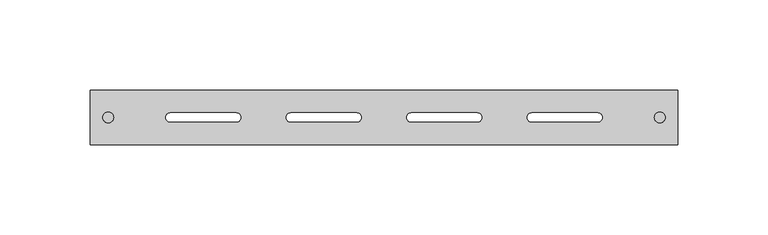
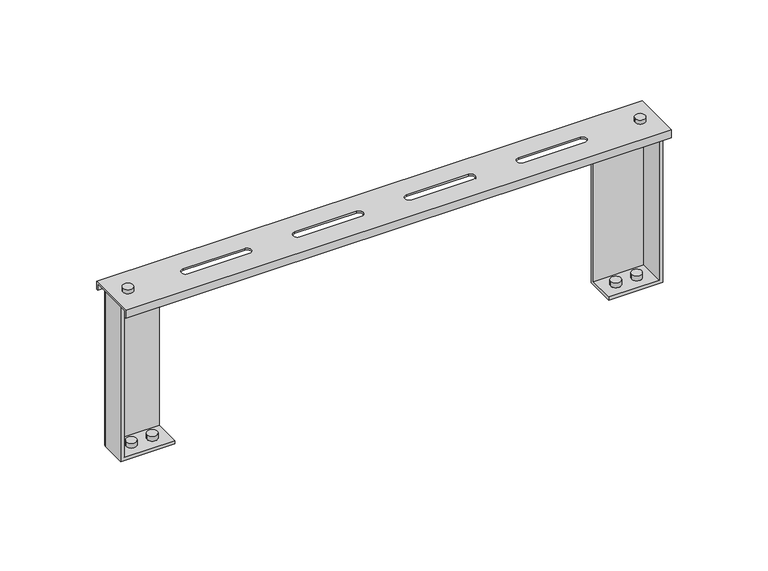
"""IFC4 building model written with IfcOpenShell, lengths in millimetres: cable carrier fitting geometry, CCT_Hyperline_FBTR_EFS_Опора_для_установки_оптического_лотка : Опора для установки оптического лотка."""

from ifc_helpers import new_model, si_unit, point, frame, frame_2d, origin, place, context, project, spatial, polyline, circle_curve, trimmed, segment, composite_curve, outline, extrude, source, transform, mapped, element, save
from ifc_brep_helpers import plane_surface, cylinder_surface, revolved_surface, advanced_brep


def cable_carrier_fitting_607e7183(model_context):
    return source(origin(), model_context, "Body", "SolidModel", [
        advanced_brep(
        [(129.2573593, 10.0, 99.0), (129.2573593, 8.0, 99.0), (159.5, 8.0, 99.0), (159.5, -8.0, 99.0), (161.5, -8.0, 99.0), (161.5, 7.8786797, 99.0), (159.3786797, 10.0, 99.0), (161.5, 7.8786797, 2.0), (159.3786797, 10.0, 2.0), (159.5, 8.0, 2.0), (159.5, -8.0, 2.0), (129.2573593, 8.0, 2.0), (129.2573593, -8.0, 2.0), (141.1286617, 0.0, 2.0), (135.1286617, 0.0, 2.0), (153.6286976, 0.0, 2.0), (147.6286976, 0.0, 2.0), (129.2573593, -8.0, 0.0), (129.2573593, 10.0, 0.0), (159.3786797, 10.0, 0.0), (161.5, 7.8786797, 0.0), (161.5, -8.0, 0.0), (135.1286617, 0.0, 0.0), (141.1286617, 0.0, 0.0), (147.6286976, 0.0, 0.0), (153.6286976, 0.0, 0.0), (141.1286617, 0.0, 5.0), (135.1286617, 0.0, 5.0), (141.1286617, 0.0, -3.0), (135.1286617, 0.0, -3.0), (147.6286976, 0.0, 5.0), (153.6286976, 0.0, 5.0), (147.6286976, 0.0, -3.0), (153.6286976, 0.0, -3.0)],
        [
            (0, 1),
            (1, 2),
            (2, 3),
            (3, 4),
            (4, 5),
            (5, 6, circle_curve(frame((159.3786797, 7.8786797, 99.0), z_axis=(0.0, 0.0, 1.0), x_axis=(-1.0, 0.0, 0.0)), 2.1213203)),
            (6, 0),
            (5, 7),
            (7, 8, circle_curve(frame((159.3786797, 7.8786797, 2.0), z_axis=(0.0, 0.0, 1.0), x_axis=(-1.0, 0.0, 0.0)), 2.1213203)),
            (8, 6),
            (2, 9),
            (9, 10),
            (10, 3),
            (1, 11),
            (11, 9),
            (12, 10),
            (11, 12),
            (13, 14, circle_curve(frame((138.1286617, 0.0, 2.0), z_axis=(0.0, 0.0, -1.0), x_axis=(-1.0, 0.0, 0.0)), 3.0)),
            (14, 13, circle_curve(frame((138.1286617, 0.0, 2.0), z_axis=(0.0, 0.0, -1.0), x_axis=(-1.0, 0.0, 0.0)), 3.0)),
            (15, 16, circle_curve(frame((150.6286976, 0.0, 2.0), z_axis=(0.0, 0.0, -1.0), x_axis=(1.0, 0.0, 0.0)), 3.0)),
            (16, 15, circle_curve(frame((150.6286976, 0.0, 2.0), z_axis=(0.0, 0.0, -1.0), x_axis=(1.0, 0.0, 0.0)), 3.0)),
            (17, 18),
            (18, 19),
            (19, 20, circle_curve(frame((159.3786797, 7.8786797, 0.0), z_axis=(0.0, 0.0, -1.0), x_axis=(-1.0, 0.0, 0.0)), 2.1213203)),
            (20, 21),
            (21, 17),
            (22, 23, circle_curve(frame((138.1286617, 0.0, 0.0), z_axis=(0.0, 0.0, 1.0), x_axis=(-1.0, 0.0, 0.0)), 3.0)),
            (23, 22, circle_curve(frame((138.1286617, 0.0, 0.0), z_axis=(0.0, 0.0, 1.0), x_axis=(-1.0, 0.0, 0.0)), 3.0)),
            (24, 25, circle_curve(frame((150.6286976, 0.0, 0.0), z_axis=(0.0, 0.0, 1.0), x_axis=(1.0, 0.0, 0.0)), 3.0)),
            (25, 24, circle_curve(frame((150.6286976, 0.0, 0.0), z_axis=(0.0, 0.0, 1.0), x_axis=(1.0, 0.0, 0.0)), 3.0)),
            (17, 12),
            (0, 18),
            (8, 19),
            (7, 20),
            (4, 21),
            (26, 27, circle_curve(frame((138.1286617, 0.0, 5.0), z_axis=(0.0, 0.0, 1.0), x_axis=(-1.0, 0.0, 0.0)), 3.0)),
            (27, 26, circle_curve(frame((138.1286617, 0.0, 5.0), z_axis=(0.0, 0.0, 1.0), x_axis=(-1.0, 0.0, 0.0)), 3.0)),
            (28, 29, circle_curve(frame((138.1286617, 0.0, -3.0), z_axis=(0.0, 0.0, -1.0), x_axis=(-1.0, 0.0, 0.0)), 3.0)),
            (29, 28, circle_curve(frame((138.1286617, 0.0, -3.0), z_axis=(0.0, 0.0, -1.0), x_axis=(-1.0, 0.0, 0.0)), 3.0)),
            (27, 14),
            (13, 26),
            (28, 23),
            (22, 29),
            (30, 31, circle_curve(frame((150.6286976, 0.0, 5.0), z_axis=(0.0, 0.0, 1.0), x_axis=(1.0, 0.0, 0.0)), 3.0)),
            (31, 30, circle_curve(frame((150.6286976, 0.0, 5.0), z_axis=(0.0, 0.0, 1.0), x_axis=(1.0, 0.0, 0.0)), 3.0)),
            (32, 33, circle_curve(frame((150.6286976, 0.0, -3.0), z_axis=(0.0, 0.0, -1.0), x_axis=(1.0, 0.0, 0.0)), 3.0)),
            (33, 32, circle_curve(frame((150.6286976, 0.0, -3.0), z_axis=(0.0, 0.0, -1.0), x_axis=(1.0, 0.0, 0.0)), 3.0)),
            (30, 16),
            (15, 31),
            (33, 25),
            (24, 32),
        ],
        [
            plane_surface(frame((129.2573593, 8.0, 99.0), z_axis=(0.0, 0.0, 1.0), x_axis=(0.0, -1.0, 0.0))),
            cylinder_surface(frame((159.3786797, 7.8786797, 2.0), z_axis=(0.0, 0.0, 1.0), x_axis=(-1.0, 0.0, 0.0)), 2.1213203),
            plane_surface(frame((159.5, 8.0, 99.0), z_axis=(-1.0, 0.0, 0.0), x_axis=(0.0, 0.0, -1.0))),
            plane_surface(frame((129.2573593, 8.0, 99.0), z_axis=(0.0, -1.0, 0.0), x_axis=(0.0, 0.0, -1.0))),
            plane_surface(frame((161.5, -8.0, 2.0), z_axis=(0.0, 0.0, 1.0), x_axis=(1.0, 0.0, 0.0))),
            plane_surface(frame((161.5, -8.0, 0.0), z_axis=(0.0, 0.0, -1.0), x_axis=(-1.0, 0.0, 0.0))),
            plane_surface(frame((129.2573593, 10.0, 2.0), z_axis=(-1.0, 0.0, 0.0), x_axis=(0.0, 0.0, -1.0))),
            plane_surface(frame((159.3786797, 10.0, 2.0), z_axis=(0.0, 1.0, 0.0), x_axis=(0.0, 0.0, -1.0))),
            cylinder_surface(frame((159.3786797, 7.8786797, 0.0), z_axis=(0.0, 0.0, 1.0), x_axis=(-1.0, 0.0, 0.0)), 2.1213203),
            plane_surface(frame((161.5, -8.0, 2.0), z_axis=(1.0, 0.0, 0.0), x_axis=(0.0, 0.0, -1.0))),
            plane_surface(frame((129.2573593, -8.0, 2.0), z_axis=(0.0, -1.0, 0.0), x_axis=(0.0, 0.0, -1.0))),
            plane_surface(frame((135.1286617, 0.0, 5.0), z_axis=(0.0, 0.0, 1.0), x_axis=(0.0, -1.0, 0.0))),
            plane_surface(frame((135.1286617, 0.0, -3.0), z_axis=(0.0, 0.0, -1.0), x_axis=(0.0, 1.0, 0.0))),
            cylinder_surface(frame((138.1286617, 0.0, -3.0), z_axis=(0.0, 0.0, 1.0), x_axis=(-1.0, 0.0, 0.0)), 3.0),
            plane_surface(frame((153.6286976, 0.0, 5.0), z_axis=(0.0, 0.0, 1.0), x_axis=(0.0, 1.0, 0.0))),
            plane_surface(frame((153.6286976, 0.0, -3.0), z_axis=(0.0, 0.0, -1.0), x_axis=(0.0, -1.0, 0.0))),
            cylinder_surface(frame((150.6286976, 0.0, -3.0), z_axis=(0.0, 0.0, 1.0), x_axis=(1.0, 0.0, 0.0)), 3.0),
        ],
        [
            (0, [[1, 2, 3, 4, 5, 6, 7]]),
            (1, [[-6, 8, 9, 10]]),
            (2, [[-3, 11, 12, 13]]),
            (3, [[-2, 14, 15, -11]]),
            (4, [[16, -12, -15, 17], [18, 19], [20, 21]]),
            (5, [[22, 23, 24, 25, 26], [27, 28], [29, 30]]),
            (6, [[-22, 31, -17, -14, -1, 32]]),
            (7, [[-23, -32, -7, -10, 33]]),
            (8, [[-24, -33, -9, 34]]),
            (9, [[-25, -34, -8, -5, 35]]),
            (10, [[-26, -35, -4, -13, -16, -31]]),
            (11, [[36, 37]]),
            (12, [[38, 39]]),
            (13, [[-37, 40, -18, 41]]),
            (13, [[-38, 42, -27, 43]]),
            (13, [[-36, -41, -19, -40]]),
            (13, [[-39, -43, -28, -42]]),
            (14, [[44, 45]]),
            (15, [[46, 47]]),
            (16, [[-44, 48, -20, 49]]),
            (16, [[-47, 50, -29, 51]]),
            (16, [[-45, -49, -21, -48]]),
            (16, [[-46, -51, -30, -50]]),
        ],
    ),
        advanced_brep(
        [(-129.2573593, 10.0, 99.0), (-159.3786797, 10.0, 99.0), (-161.5, 7.8786797, 99.0), (-161.5, -8.0, 99.0), (-159.5, -8.0, 99.0), (-159.5, 8.0, 99.0), (-129.2573593, 8.0, 99.0), (-159.3786797, 10.0, 2.0), (-161.5, 7.8786797, 2.0), (-159.5, -8.0, 2.0), (-159.5, 8.0, 2.0), (-129.2573593, 8.0, 2.0), (-129.2573593, -8.0, 2.0), (-147.6286976, 0.0, 2.0), (-153.6286976, 0.0, 2.0), (-135.1286617, 0.0, 2.0), (-141.1286617, 0.0, 2.0), (-129.2573593, -8.0, 0.0), (-161.5, -8.0, 0.0), (-161.5, 7.8786797, 0.0), (-159.3786797, 10.0, 0.0), (-129.2573593, 10.0, 0.0), (-141.1286617, 0.0, 0.0), (-135.1286617, 0.0, 0.0), (-153.6286976, 0.0, 0.0), (-147.6286976, 0.0, 0.0), (-147.6286976, 0.0, 5.0), (-153.6286976, 0.0, 5.0), (-147.6286976, 0.0, -3.0), (-153.6286976, 0.0, -3.0), (-141.1286617, 0.0, 5.0), (-135.1286617, 0.0, 5.0), (-141.1286617, 0.0, -3.0), (-135.1286617, 0.0, -3.0)],
        [
            (0, 1),
            (1, 2, circle_curve(frame((-159.3786797, 7.8786797, 99.0), z_axis=(0.0, 0.0, 1.0), x_axis=(1.0, 0.0, 0.0)), 2.1213203)),
            (2, 3),
            (3, 4),
            (4, 5),
            (5, 6),
            (6, 0),
            (1, 7),
            (7, 8, circle_curve(frame((-159.3786797, 7.8786797, 2.0), z_axis=(0.0, 0.0, 1.0), x_axis=(1.0, 0.0, 0.0)), 2.1213203)),
            (8, 2),
            (4, 9),
            (9, 10),
            (10, 5),
            (10, 11),
            (11, 6),
            (12, 11),
            (9, 12),
            (13, 14, circle_curve(frame((-150.6286976, 0.0, 2.0), z_axis=(0.0, 0.0, -1.0), x_axis=(-1.0, 0.0, 0.0)), 3.0)),
            (14, 13, circle_curve(frame((-150.6286976, 0.0, 2.0), z_axis=(0.0, 0.0, -1.0), x_axis=(-1.0, 0.0, 0.0)), 3.0)),
            (15, 16, circle_curve(frame((-138.1286617, 0.0, 2.0), z_axis=(0.0, 0.0, -1.0), x_axis=(1.0, 0.0, 0.0)), 3.0)),
            (16, 15, circle_curve(frame((-138.1286617, 0.0, 2.0), z_axis=(0.0, 0.0, -1.0), x_axis=(1.0, 0.0, 0.0)), 3.0)),
            (17, 18),
            (18, 19),
            (19, 20, circle_curve(frame((-159.3786797, 7.8786797, 0.0), z_axis=(0.0, 0.0, -1.0), x_axis=(1.0, 0.0, 0.0)), 2.1213203)),
            (20, 21),
            (21, 17),
            (22, 23, circle_curve(frame((-138.1286617, 0.0, 0.0), z_axis=(0.0, 0.0, 1.0), x_axis=(1.0, 0.0, 0.0)), 3.0)),
            (23, 22, circle_curve(frame((-138.1286617, 0.0, 0.0), z_axis=(0.0, 0.0, 1.0), x_axis=(1.0, 0.0, 0.0)), 3.0)),
            (24, 25, circle_curve(frame((-150.6286976, 0.0, 0.0), z_axis=(0.0, 0.0, 1.0), x_axis=(-1.0, 0.0, 0.0)), 3.0)),
            (25, 24, circle_curve(frame((-150.6286976, 0.0, 0.0), z_axis=(0.0, 0.0, 1.0), x_axis=(-1.0, 0.0, 0.0)), 3.0)),
            (21, 0),
            (12, 17),
            (20, 7),
            (19, 8),
            (18, 3),
            (26, 27, circle_curve(frame((-150.6286976, 0.0, 5.0), z_axis=(0.0, 0.0, 1.0), x_axis=(-1.0, 0.0, 0.0)), 3.0)),
            (27, 26, circle_curve(frame((-150.6286976, 0.0, 5.0), z_axis=(0.0, 0.0, 1.0), x_axis=(-1.0, 0.0, 0.0)), 3.0)),
            (28, 29, circle_curve(frame((-150.6286976, 0.0, -3.0), z_axis=(0.0, 0.0, -1.0), x_axis=(-1.0, 0.0, 0.0)), 3.0)),
            (29, 28, circle_curve(frame((-150.6286976, 0.0, -3.0), z_axis=(0.0, 0.0, -1.0), x_axis=(-1.0, 0.0, 0.0)), 3.0)),
            (27, 14),
            (13, 26),
            (28, 25),
            (24, 29),
            (30, 31, circle_curve(frame((-138.1286617, 0.0, 5.0), z_axis=(0.0, 0.0, 1.0), x_axis=(1.0, 0.0, 0.0)), 3.0)),
            (31, 30, circle_curve(frame((-138.1286617, 0.0, 5.0), z_axis=(0.0, 0.0, 1.0), x_axis=(1.0, 0.0, 0.0)), 3.0)),
            (32, 33, circle_curve(frame((-138.1286617, 0.0, -3.0), z_axis=(0.0, 0.0, -1.0), x_axis=(1.0, 0.0, 0.0)), 3.0)),
            (33, 32, circle_curve(frame((-138.1286617, 0.0, -3.0), z_axis=(0.0, 0.0, -1.0), x_axis=(1.0, 0.0, 0.0)), 3.0)),
            (30, 16),
            (15, 31),
            (33, 23),
            (22, 32),
        ],
        [
            plane_surface(frame((-159.3786797, 10.0, 99.0), z_axis=(0.0, 0.0, 1.0), x_axis=(-1.0, 0.0, 0.0))),
            cylinder_surface(frame((-159.3786797, 7.8786797, 2.0), z_axis=(0.0, 0.0, 1.0), x_axis=(1.0, 0.0, 0.0)), 2.1213203),
            plane_surface(frame((-159.5, -8.0, 99.0), z_axis=(1.0, 0.0, 0.0), x_axis=(0.0, 0.0, -1.0))),
            plane_surface(frame((-159.5, 8.0, 99.0), z_axis=(0.0, -1.0, 0.0), x_axis=(0.0, 0.0, -1.0))),
            plane_surface(frame((-129.2573593, -8.0, 2.0), z_axis=(0.0, 0.0, 1.0), x_axis=(0.0, 1.0, 0.0))),
            plane_surface(frame((-129.2573593, -8.0, 0.0), z_axis=(0.0, 0.0, -1.0), x_axis=(0.0, -1.0, 0.0))),
            plane_surface(frame((-129.2573593, -8.0, 2.0), z_axis=(1.0, 0.0, 0.0), x_axis=(0.0, 0.0, -1.0))),
            plane_surface(frame((-129.2573593, 10.0, 2.0), z_axis=(0.0, 1.0, 0.0), x_axis=(0.0, 0.0, -1.0))),
            cylinder_surface(frame((-159.3786797, 7.8786797, 0.0), z_axis=(0.0, 0.0, 1.0), x_axis=(1.0, 0.0, 0.0)), 2.1213203),
            plane_surface(frame((-161.5, 7.8786797, 2.0), z_axis=(-1.0, 0.0, 0.0), x_axis=(0.0, 0.0, -1.0))),
            plane_surface(frame((-161.5, -8.0, 2.0), z_axis=(0.0, -1.0, 0.0), x_axis=(0.0, 0.0, -1.0))),
            plane_surface(frame((-153.6286976, 0.0, 5.0), z_axis=(0.0, 0.0, 1.0), x_axis=(0.0, -1.0, 0.0))),
            plane_surface(frame((-153.6286976, 0.0, -3.0), z_axis=(0.0, 0.0, -1.0), x_axis=(0.0, 1.0, 0.0))),
            cylinder_surface(frame((-150.6286976, 0.0, -3.0), z_axis=(0.0, 0.0, 1.0), x_axis=(-1.0, 0.0, 0.0)), 3.0),
            plane_surface(frame((-135.1286617, 0.0, 5.0), z_axis=(0.0, 0.0, 1.0), x_axis=(0.0, 1.0, 0.0))),
            plane_surface(frame((-135.1286617, 0.0, -3.0), z_axis=(0.0, 0.0, -1.0), x_axis=(0.0, -1.0, 0.0))),
            cylinder_surface(frame((-138.1286617, 0.0, -3.0), z_axis=(0.0, 0.0, 1.0), x_axis=(1.0, 0.0, 0.0)), 3.0),
        ],
        [
            (0, [[1, 2, 3, 4, 5, 6, 7]]),
            (1, [[-2, 8, 9, 10]]),
            (2, [[-5, 11, 12, 13]]),
            (3, [[-6, -13, 14, 15]]),
            (4, [[16, -14, -12, 17], [18, 19], [20, 21]]),
            (5, [[22, 23, 24, 25, 26], [27, 28], [29, 30]]),
            (6, [[-26, 31, -7, -15, -16, 32]]),
            (7, [[-25, 33, -8, -1, -31]]),
            (8, [[-24, 34, -9, -33]]),
            (9, [[-23, 35, -3, -10, -34]]),
            (10, [[-22, -32, -17, -11, -4, -35]]),
            (11, [[36, 37]]),
            (12, [[38, 39]]),
            (13, [[-37, 40, -18, 41]]),
            (13, [[-38, 42, -29, 43]]),
            (13, [[-36, -41, -19, -40]]),
            (13, [[-39, -43, -30, -42]]),
            (14, [[44, 45]]),
            (15, [[46, 47]]),
            (16, [[-44, 48, -20, 49]]),
            (16, [[-47, 50, -27, 51]]),
            (16, [[-45, -49, -21, -48]]),
            (16, [[-46, -51, -28, -50]]),
        ],
    ),
        extrude(outline(composite_curve([segment(trimmed(circle_curve(frame_2d((-152.6286976, 0.0)), 3.0), [point((-149.6286976, 0.0))], [point((-155.6286976, 0.0))], False, "CARTESIAN"), True, "CONTINUOUS"), segment(trimmed(circle_curve(frame_2d((-152.6286976, 0.0)), 3.0), [point((-155.6286976, 0.0))], [point((-149.6286976, 0.0))], False, "CARTESIAN"), True, "CONTINUOUS")], self_intersect=False)), frame((0.0, 0.0, 100.0), z_axis=(0.0, 0.0, 1.0), x_axis=(1.0, 0.0, 0.0)), (0.0, 0.0, 1.0), 2.5),
        extrude(outline(composite_curve([segment(trimmed(circle_curve(frame_2d((152.6286976, 0.0)), 3.0), [point((149.6286976, 0.0))], [point((155.6286976, 0.0))], False, "CARTESIAN"), True, "CONTINUOUS"), segment(trimmed(circle_curve(frame_2d((152.6286976, 0.0)), 3.0), [point((155.6286976, 0.0))], [point((149.6286976, 0.0))], False, "CARTESIAN"), True, "CONTINUOUS")], self_intersect=False)), frame((0.0, 0.0, 100.0), z_axis=(0.0, 0.0, 1.0), x_axis=(1.0, 0.0, 0.0)), (0.0, 0.0, 1.0), 2.5),
        advanced_brep(
        [(-162.5, -15.0, 100.0), (-162.5, 15.0, 100.0), (-162.5, 15.0, 95.0), (-162.5, 14.0, 95.0), (-162.5, 14.0, 99.0), (-162.5, -14.0, 99.0), (-162.5, -14.0, 95.0), (-162.5, -15.0, 95.0), (162.5, -15.0, 100.0), (162.5, 15.0, 100.0), (81.6666667, 2.5, 100.0), (118.3333333, 2.5, 100.0), (118.3333333, -2.5, 100.0), (81.6666667, -2.5, 100.0), (-51.6666667, 2.5, 100.0), (-15.0, 2.5, 100.0), (-15.0, -2.5, 100.0), (-51.6666667, -2.5, 100.0), (15.0, 2.5, 100.0), (51.6666667, 2.5, 100.0), (51.6666667, -2.5, 100.0), (15.0, -2.5, 100.0), (-118.3333333, 2.5, 100.0), (-81.6666667, 2.5, 100.0), (-81.6666667, -2.5, 100.0), (-118.3333333, -2.5, 100.0), (162.5, 14.0, 99.0), (162.5, -14.0, 99.0), (-15.0, 2.5, 99.0), (-51.6666667, 2.5, 99.0), (-51.6666667, -2.5, 99.0), (-15.0, -2.5, 99.0), (51.6666667, 2.5, 99.0), (15.0, 2.5, 99.0), (15.0, -2.5, 99.0), (51.6666667, -2.5, 99.0), (118.3333333, 2.5, 99.0), (81.6666667, 2.5, 99.0), (81.6666667, -2.5, 99.0), (118.3333333, -2.5, 99.0), (-81.6666667, 2.5, 99.0), (-118.3333333, 2.5, 99.0), (-118.3333333, -2.5, 99.0), (-81.6666667, -2.5, 99.0), (162.5, -14.0, 95.0), (162.5, -15.0, 95.0), (162.5, 14.0, 95.0), (162.5, 15.0, 95.0)],
        [
            (0, 1),
            (1, 2),
            (2, 3),
            (3, 4),
            (4, 5),
            (5, 6),
            (6, 7),
            (7, 0),
            (0, 8),
            (8, 9),
            (9, 1),
            (10, 11),
            (11, 12, circle_curve(frame((118.3333333, 0.0, 100.0), z_axis=(0.0, 0.0, -1.0), x_axis=(1.0, 0.0, 0.0)), 2.5)),
            (12, 13),
            (13, 10, circle_curve(frame((81.6666667, 0.0, 100.0), z_axis=(0.0, 0.0, -1.0), x_axis=(1.0, 0.0, 0.0)), 2.5)),
            (14, 15),
            (15, 16, circle_curve(frame((-15.0, 0.0, 100.0), z_axis=(0.0, 0.0, -1.0), x_axis=(1.0, 0.0, 0.0)), 2.5)),
            (16, 17),
            (17, 14, circle_curve(frame((-51.6666667, 0.0, 100.0), z_axis=(0.0, 0.0, -1.0), x_axis=(1.0, 0.0, 0.0)), 2.5)),
            (18, 19),
            (19, 20, circle_curve(frame((51.6666667, 0.0, 100.0), z_axis=(0.0, 0.0, -1.0), x_axis=(1.0, 0.0, 0.0)), 2.5)),
            (20, 21),
            (21, 18, circle_curve(frame((15.0, 0.0, 100.0), z_axis=(0.0, 0.0, -1.0), x_axis=(1.0, 0.0, 0.0)), 2.5)),
            (22, 23),
            (23, 24, circle_curve(frame((-81.6666667, 0.0, 100.0), z_axis=(0.0, 0.0, -1.0), x_axis=(1.0, 0.0, 0.0)), 2.5)),
            (24, 25),
            (25, 22, circle_curve(frame((-118.3333333, 0.0, 100.0), z_axis=(0.0, 0.0, -1.0), x_axis=(1.0, 0.0, 0.0)), 2.5)),
            (4, 26),
            (26, 27),
            (27, 5),
            (28, 29),
            (29, 30, circle_curve(frame((-51.6666667, 0.0, 99.0), z_axis=(0.0, 0.0, 1.0), x_axis=(1.0, 0.0, 0.0)), 2.5)),
            (30, 31),
            (31, 28, circle_curve(frame((-15.0, 0.0, 99.0), z_axis=(0.0, 0.0, 1.0), x_axis=(1.0, 0.0, 0.0)), 2.5)),
            (32, 33),
            (33, 34, circle_curve(frame((15.0, 0.0, 99.0), z_axis=(0.0, 0.0, 1.0), x_axis=(1.0, 0.0, 0.0)), 2.5)),
            (34, 35),
            (35, 32, circle_curve(frame((51.6666667, 0.0, 99.0), z_axis=(0.0, 0.0, 1.0), x_axis=(1.0, 0.0, 0.0)), 2.5)),
            (36, 37),
            (37, 38, circle_curve(frame((81.6666667, 0.0, 99.0), z_axis=(0.0, 0.0, 1.0), x_axis=(1.0, 0.0, 0.0)), 2.5)),
            (38, 39),
            (39, 36, circle_curve(frame((118.3333333, 0.0, 99.0), z_axis=(0.0, 0.0, 1.0), x_axis=(1.0, 0.0, 0.0)), 2.5)),
            (40, 41),
            (41, 42, circle_curve(frame((-118.3333333, 0.0, 99.0), z_axis=(0.0, 0.0, 1.0), x_axis=(1.0, 0.0, 0.0)), 2.5)),
            (42, 43),
            (43, 40, circle_curve(frame((-81.6666667, 0.0, 99.0), z_axis=(0.0, 0.0, 1.0), x_axis=(1.0, 0.0, 0.0)), 2.5)),
            (27, 44),
            (44, 6),
            (44, 45),
            (45, 7),
            (45, 8),
            (26, 46),
            (46, 47),
            (47, 9),
            (47, 2),
            (46, 3),
            (14, 29),
            (28, 15),
            (17, 30),
            (16, 31),
            (18, 33),
            (32, 19),
            (21, 34),
            (20, 35),
            (10, 37),
            (36, 11),
            (13, 38),
            (12, 39),
            (22, 41),
            (40, 23),
            (25, 42),
            (24, 43),
        ],
        [
            plane_surface(frame((-162.5, -60.0, 24.0), z_axis=(-1.0, 0.0, 0.0), x_axis=(0.0, 0.0, 1.0))),
            plane_surface(frame((-162.5, -15.0, 100.0), z_axis=(0.0, 0.0, 1.0), x_axis=(1.0, 0.0, 0.0))),
            plane_surface(frame((-162.5, 14.0, 99.0), z_axis=(0.0, 0.0, -1.0), x_axis=(1.0, 0.0, 0.0))),
            plane_surface(frame((-162.5, -14.0, 99.0), z_axis=(0.0, 1.0, 0.0), x_axis=(1.0, 0.0, 0.0))),
            plane_surface(frame((-162.5, -14.0, 95.0), z_axis=(0.0, 0.0, -1.0), x_axis=(1.0, 0.0, 0.0))),
            plane_surface(frame((-162.5, -15.0, 95.0), z_axis=(0.0, -1.0, 0.0), x_axis=(1.0, 0.0, 0.0))),
            plane_surface(frame((162.5, -60.0, 24.0), z_axis=(1.0, 0.0, 0.0), x_axis=(0.0, 0.0, 1.0))),
            plane_surface(frame((-162.5, 15.0, 100.0), z_axis=(0.0, 1.0, 0.0), x_axis=(1.0, 0.0, 0.0))),
            plane_surface(frame((-162.5, 15.0, 95.0), z_axis=(0.0, 0.0, -1.0), x_axis=(1.0, 0.0, 0.0))),
            plane_surface(frame((-162.5, 14.0, 95.0), z_axis=(0.0, -1.0, 0.0), x_axis=(1.0, 0.0, 0.0))),
            plane_surface(frame((-15.0, 2.5, 100.0), z_axis=(0.0, -1.0, 0.0), x_axis=(0.0, 0.0, -1.0))),
            revolved_surface(polyline([(-49.1666667, 0.0, 100.0), (-49.1666667, 0.0, 99.0)]), (-51.6666667, 0.0, 99.0), (0.0, 0.0, 1.0)),
            plane_surface(frame((-51.6666667, -2.5, 100.0), z_axis=(0.0, 1.0, 0.0), x_axis=(0.0, 0.0, -1.0))),
            revolved_surface(polyline([(-12.5, 0.0, 100.0), (-12.5, 0.0, 99.0)]), (-15.0, 0.0, 99.0), (0.0, 0.0, 1.0)),
            plane_surface(frame((51.6666667, 2.5, 100.0), z_axis=(0.0, -1.0, 0.0), x_axis=(0.0, 0.0, -1.0))),
            revolved_surface(polyline([(17.5, 0.0, 100.0), (17.5, 0.0, 99.0)]), (15.0, 0.0, 99.0), (0.0, 0.0, 1.0)),
            plane_surface(frame((15.0, -2.5, 100.0), z_axis=(0.0, 1.0, 0.0), x_axis=(0.0, 0.0, -1.0))),
            revolved_surface(polyline([(54.1666667, 0.0, 100.0), (54.1666667, 0.0, 99.0)]), (51.6666667, 0.0, 99.0), (0.0, 0.0, 1.0)),
            plane_surface(frame((118.3333333, 2.5, 100.0), z_axis=(0.0, -1.0, 0.0), x_axis=(0.0, 0.0, -1.0))),
            revolved_surface(polyline([(84.1666667, 0.0, 100.0), (84.1666667, 0.0, 99.0)]), (81.6666667, 0.0, 99.0), (0.0, 0.0, 1.0)),
            plane_surface(frame((81.6666667, -2.5, 100.0), z_axis=(0.0, 1.0, 0.0), x_axis=(0.0, 0.0, -1.0))),
            revolved_surface(polyline([(120.8333333, 0.0, 100.0), (120.8333333, 0.0, 99.0)]), (118.3333333, 0.0, 99.0), (0.0, 0.0, 1.0)),
            plane_surface(frame((-81.6666667, 2.5, 100.0), z_axis=(0.0, -1.0, 0.0), x_axis=(0.0, 0.0, -1.0))),
            revolved_surface(polyline([(-115.8333333, 0.0, 100.0), (-115.8333333, 0.0, 99.0)]), (-118.3333333, 0.0, 99.0), (0.0, 0.0, 1.0)),
            plane_surface(frame((-118.3333333, -2.5, 100.0), z_axis=(0.0, 1.0, 0.0), x_axis=(0.0, 0.0, -1.0))),
            revolved_surface(polyline([(-79.1666667, 0.0, 100.0), (-79.1666667, 0.0, 99.0)]), (-81.6666667, 0.0, 99.0), (0.0, 0.0, 1.0)),
        ],
        [
            (0, [[1, 2, 3, 4, 5, 6, 7, 8]]),
            (1, [[-1, 9, 10, 11], [12, 13, 14, 15], [16, 17, 18, 19], [20, 21, 22, 23], [24, 25, 26, 27]]),
            (2, [[-5, 28, 29, 30], [31, 32, 33, 34], [35, 36, 37, 38], [39, 40, 41, 42], [43, 44, 45, 46]]),
            (3, [[-6, -30, 47, 48]]),
            (4, [[-7, -48, 49, 50]]),
            (5, [[-8, -50, 51, -9]]),
            (6, [[-10, -51, -49, -47, -29, 52, 53, 54]]),
            (7, [[-2, -11, -54, 55]]),
            (8, [[-3, -55, -53, 56]]),
            (9, [[-4, -56, -52, -28]]),
            (10, [[57, -31, 58, -16]]),
            (11, [[-57, -19, 59, -32]]),
            (12, [[-59, -18, 60, -33]]),
            (13, [[-58, -34, -60, -17]]),
            (14, [[61, -35, 62, -20]]),
            (15, [[-61, -23, 63, -36]]),
            (16, [[-63, -22, 64, -37]]),
            (17, [[-62, -38, -64, -21]]),
            (18, [[65, -39, 66, -12]]),
            (19, [[-65, -15, 67, -40]]),
            (20, [[-67, -14, 68, -41]]),
            (21, [[-66, -42, -68, -13]]),
            (22, [[69, -43, 70, -24]]),
            (23, [[-69, -27, 71, -44]]),
            (24, [[-71, -26, 72, -45]]),
            (25, [[-70, -46, -72, -25]]),
        ],
    ),
    ])


if __name__ == "__main__":
    model = new_model("IFC4")
    model_context = context("Model", 3, world=origin())
    ifc_project = project(units=[si_unit("LENGTHUNIT", "METRE", prefix="MILLI")], contexts=[model_context])
    site = spatial("IfcSite", under=ifc_project)
    building = spatial("IfcBuilding", under=site)
    placement = place(None, origin())
    cable_carrier_fitting_shape = cable_carrier_fitting_607e7183(model_context)
    element("IfcCableCarrierFitting", 1, ObjectType="CCT_Hyperline_FBTR_EFS_Опора_для_установки_оптического_лотка : Опора для установки оптического лотка", at=placement, inside=building, context=model_context, shape_type="MappedRepresentation", body=[
        mapped(cable_carrier_fitting_shape, transform((0.0, 0.0, 0.0), x_axis=(1.0, 0.0, 0.0), y_axis=(0.0, 1.0, 0.0), z_axis=(0.0, 0.0, 1.0))),
    ])
    save(model, "model.ifc")
